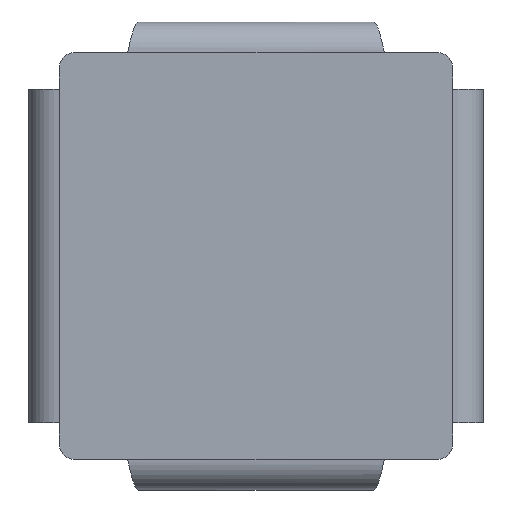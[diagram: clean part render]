
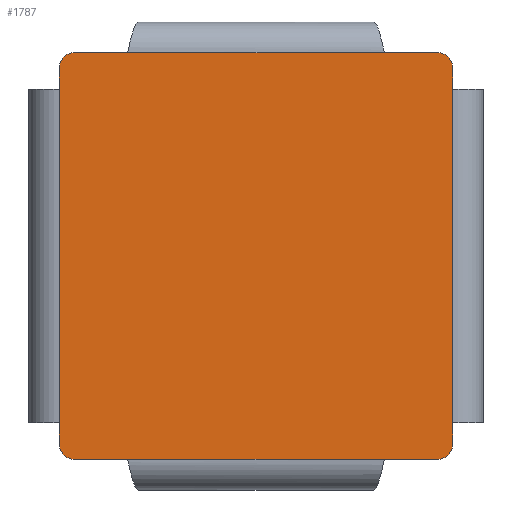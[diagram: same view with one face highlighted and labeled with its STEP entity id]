
A CAD part, front view. The second image highlights one B-rep face of the part: STEP entity #1787.
In plain terms, the highlighted planar face has unit normal (0, -1, 0).
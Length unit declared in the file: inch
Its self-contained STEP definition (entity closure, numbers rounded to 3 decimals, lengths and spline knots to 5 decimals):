
#16 = EDGE_CURVE ( 'NONE', #1789, #1793, #222, .T. ) ;
#17 = ORIENTED_EDGE ( 'NONE', *, *, #18, .T. ) ;
#18 = EDGE_CURVE ( 'NONE', #1756, #19, #217, .T. ) ;
#19 = VERTEX_POINT ( 'NONE', #212 ) ;
#20 = VERTEX_POINT ( 'NONE', #211 ) ;
#21 = VERTEX_POINT ( 'NONE', #210 ) ;
#22 = EDGE_CURVE ( 'NONE', #1850, #21, #209, .T. ) ;
#23 = ORIENTED_EDGE ( 'NONE', *, *, #1754, .T. ) ;
#24 = ORIENTED_EDGE ( 'NONE', *, *, #25, .T. ) ;
#25 = EDGE_CURVE ( 'NONE', #1864, #1819, #205, .T. ) ;
#26 = ORIENTED_EDGE ( 'NONE', *, *, #1820, .F. ) ;
#27 = ORIENTED_EDGE ( 'NONE', *, *, #28, .T. ) ;
#28 = EDGE_CURVE ( 'NONE', #20, #2229, #200, .T. ) ;
#29 = ORIENTED_EDGE ( 'NONE', *, *, #2230, .T. ) ;
#30 = EDGE_CURVE ( 'NONE', #19, #20, #196, .T. ) ;
#31 = ORIENTED_EDGE ( 'NONE', *, *, #1795, .T. ) ;
#196 = LINE ( 'NONE', #255, #254 ) ;
#197 = DIRECTION ( 'NONE',  ( -1., 0., 0. ) ) ;
#198 = VECTOR ( 'NONE', #197, 39.37008 ) ;
#199 = CARTESIAN_POINT ( 'NONE',  ( 0.5273, 0., 0.835 ) ) ;
#200 = LINE ( 'NONE', #199, #198 ) ;
#201 = DIRECTION ( 'NONE',  ( -1., 0., 0. ) ) ;
#202 = DIRECTION ( 'NONE',  ( 0., -1., 0. ) ) ;
#203 = CARTESIAN_POINT ( 'NONE',  ( -0.745, 0., -0.7725 ) ) ;
#204 = AXIS2_PLACEMENT_3D ( 'NONE', #203, #202, #201 ) ;
#205 = CIRCLE ( 'NONE', #204, 0.0625 ) ;
#206 = DIRECTION ( 'NONE',  ( 0., 0., 1. ) ) ;
#207 = VECTOR ( 'NONE', #206, 39.37008 ) ;
#208 = CARTESIAN_POINT ( 'NONE',  ( -0.8075, 0., -0.835 ) ) ;
#209 = LINE ( 'NONE', #208, #207 ) ;
#210 = CARTESIAN_POINT ( 'NONE',  ( -0.8075, 0., 0.7725 ) ) ;
#211 = CARTESIAN_POINT ( 'NONE',  ( 0.5273, 0., 0.835 ) ) ;
#212 = CARTESIAN_POINT ( 'NONE',  ( 0.745, 0., 0.835 ) ) ;
#213 = DIRECTION ( 'NONE',  ( -1., 0., 0. ) ) ;
#214 = DIRECTION ( 'NONE',  ( 0., -1., 0. ) ) ;
#215 = CARTESIAN_POINT ( 'NONE',  ( 0.745, 0., 0.7725 ) ) ;
#216 = AXIS2_PLACEMENT_3D ( 'NONE', #215, #214, #213 ) ;
#217 = CIRCLE ( 'NONE', #216, 0.0625 ) ;
#218 = DIRECTION ( 'NONE',  ( -1., 0., 0. ) ) ;
#219 = DIRECTION ( 'NONE',  ( 0., -1., 0. ) ) ;
#220 = CARTESIAN_POINT ( 'NONE',  ( 0.745, 0., -0.7725 ) ) ;
#221 = AXIS2_PLACEMENT_3D ( 'NONE', #220, #219, #218 ) ;
#222 = CIRCLE ( 'NONE', #221, 0.0625 ) ;
#253 = DIRECTION ( 'NONE',  ( -1., 0., 0. ) ) ;
#254 = VECTOR ( 'NONE', #253, 39.37008 ) ;
#255 = CARTESIAN_POINT ( 'NONE',  ( 0.8075, 0., 0.835 ) ) ;
#565 = DIRECTION ( 'NONE',  ( 0., 0., -1. ) ) ;
#566 = VECTOR ( 'NONE', #565, 39.37008 ) ;
#567 = CARTESIAN_POINT ( 'NONE',  ( 0.8075, 0., 9.185 ) ) ;
#568 = LINE ( 'NONE', #567, #566 ) ;
#675 = CARTESIAN_POINT ( 'NONE',  ( 0.8075, 0., 0.685 ) ) ;
#691 = CARTESIAN_POINT ( 'NONE',  ( 0.8075, 0., 0.7725 ) ) ;
#696 = DIRECTION ( 'NONE',  ( 0., 0., 1. ) ) ;
#697 = VECTOR ( 'NONE', #696, 39.37008 ) ;
#698 = CARTESIAN_POINT ( 'NONE',  ( 0.8075, 0., -0.835 ) ) ;
#699 = LINE ( 'NONE', #698, #697 ) ;
#724 = CARTESIAN_POINT ( 'NONE',  ( 0.8075, 0., -0.685 ) ) ;
#786 = DIRECTION ( 'NONE',  ( 0., 0., 1. ) ) ;
#787 = VECTOR ( 'NONE', #786, 39.37008 ) ;
#788 = CARTESIAN_POINT ( 'NONE',  ( 0.8075, 0., -0.835 ) ) ;
#789 = LINE ( 'NONE', #788, #787 ) ;
#790 = CARTESIAN_POINT ( 'NONE',  ( 0.8075, 0., -0.7725 ) ) ;
#791 = CARTESIAN_POINT ( 'NONE',  ( 0.5273, 0., -0.835 ) ) ;
#796 = DIRECTION ( 'NONE',  ( -1., 0., 0. ) ) ;
#797 = VECTOR ( 'NONE', #796, 39.37008 ) ;
#798 = CARTESIAN_POINT ( 'NONE',  ( 0.8075, 0., -0.835 ) ) ;
#799 = LINE ( 'NONE', #798, #797 ) ;
#800 = CARTESIAN_POINT ( 'NONE',  ( 0.745, 0., -0.835 ) ) ;
#801 = DIRECTION ( 'NONE',  ( -1., 0., 0. ) ) ;
#802 = DIRECTION ( 'NONE',  ( 0., 1., 0. ) ) ;
#803 = CARTESIAN_POINT ( 'NONE',  ( 0.8075, 0., -0.835 ) ) ;
#804 = AXIS2_PLACEMENT_3D ( 'NONE', #803, #802, #801 ) ;
#805 = PLANE ( 'NONE',  #804 ) ;
#806 = FACE_OUTER_BOUND ( 'NONE', #1785, .T. ) ;
#807 = CARTESIAN_POINT ( 'NONE',  ( -0.5273, 0., -0.835 ) ) ;
#808 = DIRECTION ( 'NONE',  ( -1., 0., 0. ) ) ;
#809 = VECTOR ( 'NONE', #808, 39.37008 ) ;
#810 = CARTESIAN_POINT ( 'NONE',  ( 0.8075, 0., -0.835 ) ) ;
#811 = LINE ( 'NONE', #810, #809 ) ;
#812 = CARTESIAN_POINT ( 'NONE',  ( -0.745, 0., -0.835 ) ) ;
#868 = CARTESIAN_POINT ( 'NONE',  ( -0.5273, 0., -0.835 ) ) ;
#869 = LINE ( 'NONE', #868, #932 ) ;
#870 = DIRECTION ( 'NONE',  ( -1., 0., 0. ) ) ;
#871 = DIRECTION ( 'NONE',  ( 0., -1., 0. ) ) ;
#872 = CARTESIAN_POINT ( 'NONE',  ( -0.745, 0., 0.7725 ) ) ;
#873 = AXIS2_PLACEMENT_3D ( 'NONE', #872, #871, #870 ) ;
#874 = CIRCLE ( 'NONE', #873, 0.0625 ) ;
#875 = CARTESIAN_POINT ( 'NONE',  ( -0.8075, 0., 0.685 ) ) ;
#880 = DIRECTION ( 'NONE',  ( 0., 0., -1. ) ) ;
#881 = VECTOR ( 'NONE', #880, 39.37008 ) ;
#882 = CARTESIAN_POINT ( 'NONE',  ( -0.8075, 0., 9.185 ) ) ;
#883 = LINE ( 'NONE', #882, #881 ) ;
#900 = DIRECTION ( 'NONE',  ( 0., 0., 1. ) ) ;
#901 = VECTOR ( 'NONE', #900, 39.37008 ) ;
#902 = CARTESIAN_POINT ( 'NONE',  ( -0.8075, 0., -0.835 ) ) ;
#903 = LINE ( 'NONE', #902, #901 ) ;
#908 = CARTESIAN_POINT ( 'NONE',  ( -0.8075, 0., -0.685 ) ) ;
#909 = CARTESIAN_POINT ( 'NONE',  ( -0.8075, 0., -0.7725 ) ) ;
#931 = DIRECTION ( 'NONE',  ( 1., 0., 0. ) ) ;
#932 = VECTOR ( 'NONE', #931, 39.37008 ) ;
#1631 = DIRECTION ( 'NONE',  ( -1., 0., 0. ) ) ;
#1632 = VECTOR ( 'NONE', #1631, 39.37008 ) ;
#1633 = CARTESIAN_POINT ( 'NONE',  ( 0.8075, 0., 0.835 ) ) ;
#1634 = LINE ( 'NONE', #1633, #1632 ) ;
#1635 = CARTESIAN_POINT ( 'NONE',  ( -0.5273, 0., 0.835 ) ) ;
#1636 = CARTESIAN_POINT ( 'NONE',  ( -0.745, 0., 0.835 ) ) ;
#1664 = EDGE_CURVE ( 'NONE', #1721, #1778, #568, .T. ) ;
#1721 = VERTEX_POINT ( 'NONE', #675 ) ;
#1754 = EDGE_CURVE ( 'NONE', #1721, #1756, #699, .T. ) ;
#1756 = VERTEX_POINT ( 'NONE', #691 ) ;
#1778 = VERTEX_POINT ( 'NONE', #724 ) ;
#1785 = EDGE_LOOP ( 'NONE', ( #1788, #1806, #31, #1845, #23, #17, #1811, #27, #29, #1807, #1851, #1844, #1846, #24, #26, #1857 ) ) ;
#1787 = ADVANCED_FACE ( 'NONE', ( #806 ), #805, .F. ) ;
#1788 = ORIENTED_EDGE ( 'NONE', *, *, #1790, .F. ) ;
#1789 = VERTEX_POINT ( 'NONE', #800 ) ;
#1790 = EDGE_CURVE ( 'NONE', #1789, #1792, #799, .T. ) ;
#1792 = VERTEX_POINT ( 'NONE', #791 ) ;
#1793 = VERTEX_POINT ( 'NONE', #790 ) ;
#1795 = EDGE_CURVE ( 'NONE', #1793, #1778, #789, .T. ) ;
#1806 = ORIENTED_EDGE ( 'NONE', *, *, #16, .T. ) ;
#1807 = ORIENTED_EDGE ( 'NONE', *, *, #1852, .T. ) ;
#1811 = ORIENTED_EDGE ( 'NONE', *, *, #30, .T. ) ;
#1819 = VERTEX_POINT ( 'NONE', #812 ) ;
#1820 = EDGE_CURVE ( 'NONE', #1821, #1819, #811, .T. ) ;
#1821 = VERTEX_POINT ( 'NONE', #807 ) ;
#1843 = EDGE_CURVE ( 'NONE', #1850, #1866, #883, .T. ) ;
#1844 = ORIENTED_EDGE ( 'NONE', *, *, #1843, .T. ) ;
#1845 = ORIENTED_EDGE ( 'NONE', *, *, #1664, .F. ) ;
#1846 = ORIENTED_EDGE ( 'NONE', *, *, #1868, .F. ) ;
#1850 = VERTEX_POINT ( 'NONE', #875 ) ;
#1851 = ORIENTED_EDGE ( 'NONE', *, *, #22, .F. ) ;
#1852 = EDGE_CURVE ( 'NONE', #2227, #21, #874, .T. ) ;
#1854 = EDGE_CURVE ( 'NONE', #1821, #1792, #869, .T. ) ;
#1857 = ORIENTED_EDGE ( 'NONE', *, *, #1854, .T. ) ;
#1864 = VERTEX_POINT ( 'NONE', #909 ) ;
#1866 = VERTEX_POINT ( 'NONE', #908 ) ;
#1868 = EDGE_CURVE ( 'NONE', #1864, #1866, #903, .T. ) ;
#2227 = VERTEX_POINT ( 'NONE', #1636 ) ;
#2229 = VERTEX_POINT ( 'NONE', #1635 ) ;
#2230 = EDGE_CURVE ( 'NONE', #2229, #2227, #1634, .T. ) ;
